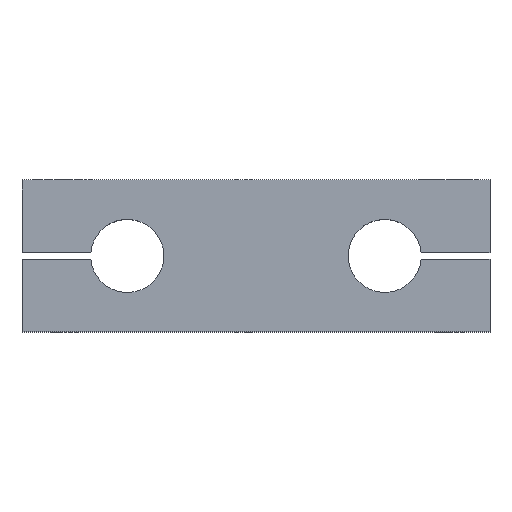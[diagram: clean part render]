
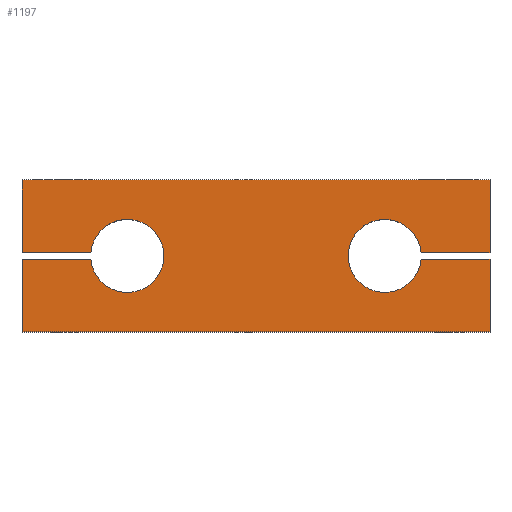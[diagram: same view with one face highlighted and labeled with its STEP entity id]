
A CAD part, top view. The second image highlights one B-rep face of the part: STEP entity #1197.
In plain terms, the highlighted planar face has unit normal (0, 0, 1).
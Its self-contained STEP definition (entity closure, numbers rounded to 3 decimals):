
#7 = CARTESIAN_POINT ( 'NONE',  ( -80., 26., 12.5 ) ) ;
#64 = CARTESIAN_POINT ( 'NONE',  ( -80., -26., 12.5 ) ) ;
#71 = VERTEX_POINT ( 'NONE', #827 ) ;
#111 = DIRECTION ( 'NONE',  ( 0., 0., 1. ) ) ;
#116 = LINE ( 'NONE', #1024, #1073 ) ;
#118 = EDGE_CURVE ( 'NONE', #1123, #402, #1290, .T. ) ;
#151 = EDGE_CURVE ( 'NONE', #803, #181, #1149, .T. ) ;
#170 = CARTESIAN_POINT ( 'NONE',  ( -80., -1.075, 12.5 ) ) ;
#181 = VERTEX_POINT ( 'NONE', #1143 ) ;
#182 = DIRECTION ( 'NONE',  ( 0., -1., 0. ) ) ;
#193 = AXIS2_PLACEMENT_3D ( 'NONE', #239, #954, #1262 ) ;
#224 = CARTESIAN_POINT ( 'NONE',  ( 0., 0., 12.5 ) ) ;
#228 = CARTESIAN_POINT ( 'NONE',  ( -56.454, -1.075, 12.5 ) ) ;
#231 = DIRECTION ( 'NONE',  ( -1., 0., 0. ) ) ;
#239 = CARTESIAN_POINT ( 'NONE',  ( -44., 0., 12.5 ) ) ;
#243 = LINE ( 'NONE', #661, #1327 ) ;
#265 = LINE ( 'NONE', #170, #750 ) ;
#293 = EDGE_CURVE ( 'NONE', #71, #977, #265, .T. ) ;
#321 = VECTOR ( 'NONE', #231, 1000. ) ;
#324 = VECTOR ( 'NONE', #370, 1000. ) ;
#325 = CARTESIAN_POINT ( 'NONE',  ( 80., 26., 12.5 ) ) ;
#331 = LINE ( 'NONE', #325, #712 ) ;
#333 = ORIENTED_EDGE ( 'NONE', *, *, #581, .T. ) ;
#350 = VECTOR ( 'NONE', #182, 1000. ) ;
#365 = ORIENTED_EDGE ( 'NONE', *, *, #757, .T. ) ;
#370 = DIRECTION ( 'NONE',  ( 0., 1., 0. ) ) ;
#402 = VERTEX_POINT ( 'NONE', #500 ) ;
#415 = DIRECTION ( 'NONE',  ( 1., 0., 0. ) ) ;
#432 = CARTESIAN_POINT ( 'NONE',  ( -80., -26., 12.5 ) ) ;
#442 = DIRECTION ( 'NONE',  ( 1., 0., 0. ) ) ;
#449 = EDGE_LOOP ( 'NONE', ( #1301, #484, #786, #763, #1091, #365, #638, #782, #830, #478, #1199, #333, #1222 ) ) ;
#467 = DIRECTION ( 'NONE',  ( 1., 0., 0. ) ) ;
#478 = ORIENTED_EDGE ( 'NONE', *, *, #151, .F. ) ;
#484 = ORIENTED_EDGE ( 'NONE', *, *, #118, .F. ) ;
#500 = CARTESIAN_POINT ( 'NONE',  ( -56.454, 1.075, 12.5 ) ) ;
#513 = EDGE_CURVE ( 'NONE', #672, #909, #1207, .T. ) ;
#519 = CARTESIAN_POINT ( 'NONE',  ( -80., 26., 12.5 ) ) ;
#537 = VERTEX_POINT ( 'NONE', #1221 ) ;
#539 = CARTESIAN_POINT ( 'NONE',  ( 56.454, -1.075, 12.5 ) ) ;
#544 = DIRECTION ( 'NONE',  ( 0., 0., 1. ) ) ;
#580 = EDGE_CURVE ( 'NONE', #181, #672, #1133, .T. ) ;
#581 = EDGE_CURVE ( 'NONE', #1166, #642, #116, .T. ) ;
#587 = LINE ( 'NONE', #64, #922 ) ;
#624 = EDGE_CURVE ( 'NONE', #977, #1123, #946, .T. ) ;
#632 = DIRECTION ( 'NONE',  ( 0., 1., 0. ) ) ;
#638 = ORIENTED_EDGE ( 'NONE', *, *, #1233, .T. ) ;
#642 = VERTEX_POINT ( 'NONE', #519 ) ;
#661 = CARTESIAN_POINT ( 'NONE',  ( -80., 1.075, 12.5 ) ) ;
#672 = VERTEX_POINT ( 'NONE', #539 ) ;
#673 = EDGE_CURVE ( 'NONE', #642, #537, #935, .T. ) ;
#682 = EDGE_CURVE ( 'NONE', #402, #537, #243, .T. ) ;
#703 = DIRECTION ( 'NONE',  ( 1., 0., 0. ) ) ;
#712 = VECTOR ( 'NONE', #632, 1000. ) ;
#750 = VECTOR ( 'NONE', #992, 1000. ) ;
#757 = EDGE_CURVE ( 'NONE', #952, #874, #587, .T. ) ;
#763 = ORIENTED_EDGE ( 'NONE', *, *, #293, .F. ) ;
#779 = AXIS2_PLACEMENT_3D ( 'NONE', #1036, #111, #442 ) ;
#781 = AXIS2_PLACEMENT_3D ( 'NONE', #1054, #544, #959 ) ;
#782 = ORIENTED_EDGE ( 'NONE', *, *, #513, .F. ) ;
#786 = ORIENTED_EDGE ( 'NONE', *, *, #624, .F. ) ;
#803 = VERTEX_POINT ( 'NONE', #1288 ) ;
#826 = EDGE_CURVE ( 'NONE', #71, #952, #1200, .T. ) ;
#827 = CARTESIAN_POINT ( 'NONE',  ( -80., -1.075, 12.5 ) ) ;
#830 = ORIENTED_EDGE ( 'NONE', *, *, #580, .F. ) ;
#842 = DIRECTION ( 'NONE',  ( -1., 0., 0. ) ) ;
#871 = CARTESIAN_POINT ( 'NONE',  ( 43., 1.075, 12.5 ) ) ;
#873 = CARTESIAN_POINT ( 'NONE',  ( -31.5, 0., 12.5 ) ) ;
#874 = VERTEX_POINT ( 'NONE', #1082 ) ;
#882 = CARTESIAN_POINT ( 'NONE',  ( 80., -1.075, 12.5 ) ) ;
#904 = CARTESIAN_POINT ( 'NONE',  ( 43., -1.075, 12.5 ) ) ;
#909 = VERTEX_POINT ( 'NONE', #882 ) ;
#917 = EDGE_CURVE ( 'NONE', #803, #1166, #972, .T. ) ;
#922 = VECTOR ( 'NONE', #467, 1000. ) ;
#924 = AXIS2_PLACEMENT_3D ( 'NONE', #224, #1230, #415 ) ;
#935 = LINE ( 'NONE', #7, #1011 ) ;
#946 = CIRCLE ( 'NONE', #781, 12.5 ) ;
#952 = VERTEX_POINT ( 'NONE', #432 ) ;
#953 = DIRECTION ( 'NONE',  ( 0., -1., 0. ) ) ;
#954 = DIRECTION ( 'NONE',  ( 0., 0., 1. ) ) ;
#959 = DIRECTION ( 'NONE',  ( 1., 0., 0. ) ) ;
#962 = CARTESIAN_POINT ( 'NONE',  ( 80., 26., 12.5 ) ) ;
#972 = LINE ( 'NONE', #962, #324 ) ;
#973 = PLANE ( 'NONE',  #924 ) ;
#977 = VERTEX_POINT ( 'NONE', #228 ) ;
#985 = CARTESIAN_POINT ( 'NONE',  ( -80., 26., 12.5 ) ) ;
#992 = DIRECTION ( 'NONE',  ( 1., 0., 0. ) ) ;
#1011 = VECTOR ( 'NONE', #953, 1000. ) ;
#1024 = CARTESIAN_POINT ( 'NONE',  ( -80., 26., 12.5 ) ) ;
#1036 = CARTESIAN_POINT ( 'NONE',  ( 44., 0., 12.5 ) ) ;
#1052 = CARTESIAN_POINT ( 'NONE',  ( 80., 26., 12.5 ) ) ;
#1054 = CARTESIAN_POINT ( 'NONE',  ( -44., 0., 12.5 ) ) ;
#1068 = DIRECTION ( 'NONE',  ( -1., 0., 0. ) ) ;
#1073 = VECTOR ( 'NONE', #842, 1000. ) ;
#1082 = CARTESIAN_POINT ( 'NONE',  ( 80., -26., 12.5 ) ) ;
#1091 = ORIENTED_EDGE ( 'NONE', *, *, #826, .T. ) ;
#1123 = VERTEX_POINT ( 'NONE', #873 ) ;
#1133 = CIRCLE ( 'NONE', #779, 12.5 ) ;
#1143 = CARTESIAN_POINT ( 'NONE',  ( 56.454, 1.075, 12.5 ) ) ;
#1149 = LINE ( 'NONE', #871, #321 ) ;
#1165 = FACE_OUTER_BOUND ( 'NONE', #449, .T. ) ;
#1166 = VERTEX_POINT ( 'NONE', #1052 ) ;
#1197 = ADVANCED_FACE ( 'NONE', ( #1165 ), #973, .T. ) ;
#1199 = ORIENTED_EDGE ( 'NONE', *, *, #917, .T. ) ;
#1200 = LINE ( 'NONE', #985, #350 ) ;
#1207 = LINE ( 'NONE', #904, #1326 ) ;
#1221 = CARTESIAN_POINT ( 'NONE',  ( -80., 1.075, 12.5 ) ) ;
#1222 = ORIENTED_EDGE ( 'NONE', *, *, #673, .T. ) ;
#1230 = DIRECTION ( 'NONE',  ( 0., 0., 1. ) ) ;
#1233 = EDGE_CURVE ( 'NONE', #874, #909, #331, .T. ) ;
#1262 = DIRECTION ( 'NONE',  ( 1., 0., 0. ) ) ;
#1288 = CARTESIAN_POINT ( 'NONE',  ( 80., 1.075, 12.5 ) ) ;
#1290 = CIRCLE ( 'NONE', #193, 12.5 ) ;
#1301 = ORIENTED_EDGE ( 'NONE', *, *, #682, .F. ) ;
#1326 = VECTOR ( 'NONE', #703, 1000. ) ;
#1327 = VECTOR ( 'NONE', #1068, 1000. ) ;
